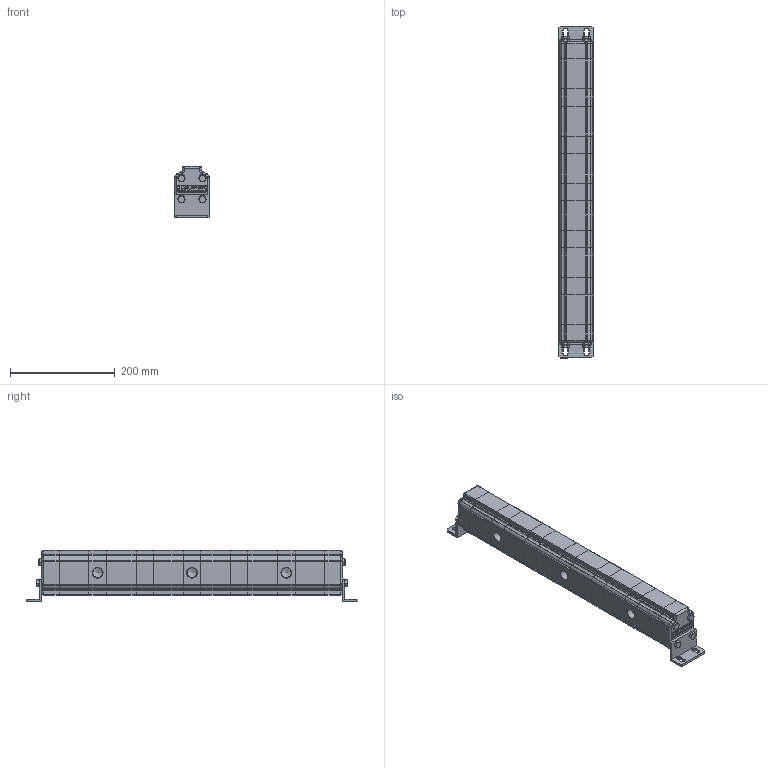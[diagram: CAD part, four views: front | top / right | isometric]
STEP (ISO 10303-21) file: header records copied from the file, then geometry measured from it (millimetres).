
FILE_DESCRIPTION(/* description */ ('Unknown'),/* implementation_level */ '2;1');
FILE_NAME(/* name */ '9RD0629',/* time_stamp */ '2020-04-14T13:20:22+02:00',/* author */ ('Unknown'),/* organization */ ('Unknown'),/* preprocessor_version */ 'ST-DEVELOPER v16.7',/* originating_system */ 'DEX',/* authorisation */ $);
FILE_SCHEMA (('AUTOMOTIVE_DESIGN {1 0 10303 214 3 1 1}'));
Length unit declared in the file: millimetre
Products named in the file (1): RV-1D
Bounding box: 66 x 633 x 98.5 mm (x, y, z)
Volume: 2798466.7 mm3; surface area: 193915.7 mm2
Topology: 1 solids, 1 shells, 1110 faces, 3047 edges, 1955 vertices
Faces by surface type: cylinder 546, plane 426, bspline 64, cone 42, torus 32
Full cylindrical faces by diameter (mm): 12 x8, 14.95 x12, 18.631 x6
Entity records: 44565 total; most frequent: CARTESIAN_POINT 8472, DIRECTION 6130, ORIENTED_EDGE 5856, EDGE_CURVE 2928, AXIS2_PLACEMENT_3D 2251, VERTEX_POINT 1929, LINE 1628, VECTOR 1628
